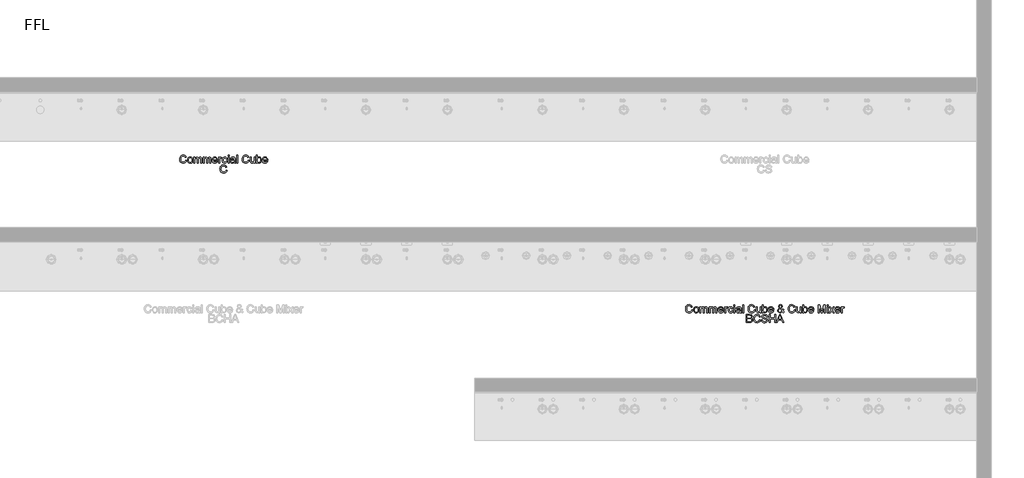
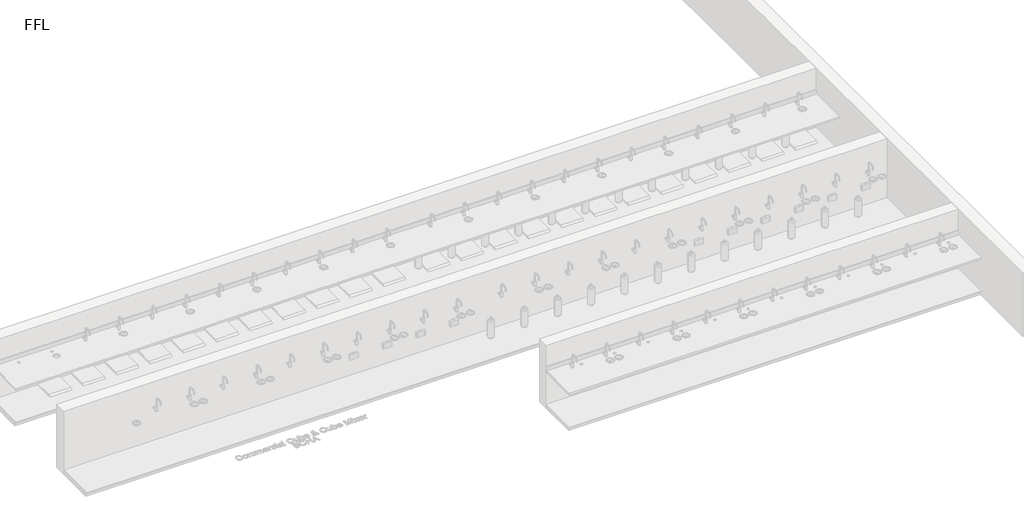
# One storey, part 11 of 14: 2 proxies.
"""IFC4 building model written with IfcOpenShell, lengths in millimetres."""

from ifc_helpers import new_model, si_unit, origin, origin_with_axes, place, context, project, spatial, polyline, outline, extrude, element, save

model = new_model("IFC4")

# Units and contexts
model_context = context("Model", 3, world=origin())
ifc_project = project(units=[si_unit("LENGTHUNIT", "METRE", prefix="MILLI")], contexts=[model_context])

# Site, building, storey
site = spatial("IfcSite", under=ifc_project)
building = spatial("IfcBuilding", under=site)
storey = spatial("IfcBuildingStorey", under=building, Name="FFL", Elevation=0.0)

# Proxies
placement = place(None, origin())
element("IfcBuildingElementProxy", 1, Name="150mm Arial", ObjectType="150mm Arial", at=placement, inside=storey, context=model_context, shape_type="SweptSolid", body=[
    extrude(outline(polyline([(-3043.9660621, 1076.3018309), (-3025.5045236, 1071.5422155), (-3034.0231534, 1050.0292948), (-3047.3915429, 1034.3126482), (-3064.951639, 1024.698766), (-3086.045389, 1021.4941386), (-3107.459151, 1023.9190184), (-3124.4648602, 1031.1936578), (-3137.4997159, 1043.065653), (-3147.0009179, 1059.2826001), (-3152.8016991, 1078.3481049), (-3154.7352929, 1098.7657732), (-3152.5492953, 1120.3012299), (-3145.9913025, 1138.8979847), (-3135.4038626, 1153.9655929), (-3121.1295236, 1164.9136097), (-3104.2004371, 1171.5797756), (-3085.6487544, 1173.8018309), (-3065.4068674, 1170.9262299), (-3048.6715909, 1162.299427), (-3035.9657616, 1148.4532732), (-3027.8122159, 1129.9196193), (-3046.2737544, 1125.5205809), (-3052.6739948, 1138.9836217), (-3061.4179852, 1148.2188982), (-3072.6138986, 1153.5599439), (-3086.3699083, 1155.3402924), (-3102.2262784, 1153.3661338), (-3115.2521198, 1147.4436578), (-3125.1364347, 1138.1948597), (-3131.5682256, 1126.2417347), (-3136.2737544, 1098.8018309), (-3130.7028409, 1066.9989463), (-3123.5814467, 1055.1224439), (-3113.3590909, 1046.6804367), (-3101.1039828, 1041.6368669), (-3087.8843313, 1039.955677), (-3072.4741751, 1042.2453405), (-3059.6331294, 1049.1143309), (-3049.9381174, 1060.4905328), (-3043.9660621, 1076.3018309)])), origin_with_axes(), (0.0, 0.0, 1.0), 5.0),
    extrude(outline(polyline([(-3007.0429852, 1078.0326001), (-3003.0495958, 1104.1834415), (-2991.0694275, 1122.5638501), (-2976.2677448, 1131.5692588), (-2958.545389, 1134.5710617), (-2939.1508578, 1130.9157131), (-2923.6595717, 1119.9496674), (-2913.5048241, 1102.5383092), (-2910.1199083, 1079.5470232), (-2911.6163025, 1060.8961818), (-2916.1054852, 1046.6984655), (-2923.4567472, 1036.0659535), (-2933.5393794, 1028.1107251), (-2945.5150405, 1023.1482852), (-2958.545389, 1021.4941386), (-2978.1742953, 1025.1359655), (-2993.6475525, 1036.0614463), (-3003.694127, 1053.8378886), (-3007.0429852, 1078.0326001)]), holes=[polyline([(-2988.5814467, 1078.0686578), (-2986.4450284, 1061.3604246), (-2980.0357736, 1049.456879), (-2970.3903409, 1042.3309775), (-2958.545389, 1039.955677), (-2946.7545236, 1042.3444992), (-2937.1271198, 1049.5109655), (-2930.717865, 1061.5722636), (-2928.5814467, 1078.6455809), (-2930.7313866, 1094.8670352), (-2937.1812063, 1106.6083213), (-2946.8221318, 1113.7342227), (-2958.545389, 1116.1095232), (-2970.3903409, 1113.7432371), (-2980.0357736, 1106.644379), (-2986.4450284, 1094.7678766), (-2988.5814467, 1078.0686578)])]), origin_with_axes(), (0.0, 0.0, 1.0), 5.0),
    extrude(outline(polyline([(-2889.3506775, 1023.8018309), (-2889.3506775, 1132.2633693), (-2870.889139, 1132.2633693), (-2870.889139, 1114.4148117), (-2858.1968313, 1129.0362059), (-2840.1319275, 1134.5710617), (-2829.8644996, 1133.1603044), (-2821.6343313, 1128.9280328), (-2811.4660621, 1113.1167347), (-2797.061014, 1129.2074799), (-2778.8699083, 1134.5710617), (-2764.9922039, 1132.3399919), (-2754.7292833, 1125.6467828), (-2748.3876366, 1114.3111458), (-2746.2737544, 1098.1527924), (-2746.2737544, 1023.8018309), (-2764.7352929, 1023.8018309), (-2764.7352929, 1090.2201001), (-2766.4480333, 1105.6347636), (-2772.6499563, 1113.2249078), (-2783.1968313, 1116.1095232), (-2793.1983337, 1114.2615665), (-2801.3518794, 1108.7176963), (-2806.7740549, 1099.0993068), (-2808.5814467, 1085.0277924), (-2808.5814467, 1023.8018309), (-2827.0429852, 1023.8018309), (-2827.0429852, 1092.2753886), (-2831.3158217, 1110.160004), (-2836.9543434, 1114.6221434), (-2845.3242352, 1116.1095232), (-2858.9901006, 1112.143177), (-2868.076639, 1100.5326001), (-2870.889139, 1078.5013501), (-2870.889139, 1023.8018309), (-2889.3506775, 1023.8018309)])), origin_with_axes(), (0.0, 0.0, 1.0), 5.0),
    extrude(outline(polyline([(-2718.5814467, 1023.8018309), (-2718.5814467, 1132.2633693), (-2700.1199083, 1132.2633693), (-2700.1199083, 1114.4148117), (-2687.4276006, 1129.0362059), (-2669.3626967, 1134.5710617), (-2659.0952688, 1133.1603044), (-2650.8651006, 1128.9280328), (-2640.6968313, 1113.1167347), (-2626.2917833, 1129.2074799), (-2608.1006775, 1134.5710617), (-2594.2229732, 1132.3399919), (-2583.9600525, 1125.6467828), (-2577.6184059, 1114.3111458), (-2575.5045236, 1098.1527924), (-2575.5045236, 1023.8018309), (-2593.9660621, 1023.8018309), (-2593.9660621, 1090.2201001), (-2595.6788025, 1105.6347636), (-2601.8807256, 1113.2249078), (-2612.4276006, 1116.1095232), (-2622.429103, 1114.2615665), (-2630.5826486, 1108.7176963), (-2636.0048241, 1099.0993068), (-2637.8122159, 1085.0277924), (-2637.8122159, 1023.8018309), (-2656.2737544, 1023.8018309), (-2656.2737544, 1092.2753886), (-2660.5465909, 1110.160004), (-2666.1851126, 1114.6221434), (-2674.5550044, 1116.1095232), (-2688.2208698, 1112.143177), (-2697.3074083, 1100.5326001), (-2700.1199083, 1078.5013501), (-2700.1199083, 1023.8018309), (-2718.5814467, 1023.8018309)])), origin_with_axes(), (0.0, 0.0, 1.0), 5.0),
    extrude(outline(polyline([(-2471.8747159, 1056.1095232), (-2453.7737544, 1053.8018309), (-2460.2956895, 1040.1630088), (-2470.7028409, 1029.9676963), (-2484.7608337, 1023.612528), (-2502.2352929, 1021.4941386), (-2523.8969515, 1025.1494871), (-2540.5646198, 1036.1155328), (-2551.1926246, 1053.6801362), (-2554.7352929, 1077.1311578), (-2551.1565669, 1101.3709415), (-2540.420389, 1119.4989463), (-2523.9780813, 1130.8030328), (-2503.2809659, 1134.5710617), (-2483.2283818, 1130.8120472), (-2467.2052448, 1119.535004), (-2456.6989347, 1101.4430568), (-2453.1968313, 1077.2393309), (-2453.3050044, 1072.2633693), (-2536.2737544, 1072.2633693), (-2533.0781414, 1058.4442588), (-2525.654764, 1048.285004), (-2514.9411222, 1042.0380088), (-2501.8747159, 1039.955677), (-2483.7737544, 1043.8138501), (-2471.8747159, 1056.1095232)]), holes=[polyline([(-2536.2737544, 1090.7249078), (-2471.6583698, 1090.7249078), (-2474.155365, 1100.4785136), (-2479.0501967, 1107.455677), (-2489.8134179, 1113.9460617), (-2503.3530813, 1116.1095232), (-2515.7974924, 1114.3832612), (-2526.0874563, 1109.2044751), (-2533.240401, 1101.1320592), (-2536.2737544, 1090.7249078)])]), origin_with_axes(), (0.0, 0.0, 1.0), 5.0),
    extrude(outline(polyline([(-2434.7352929, 1023.8018309), (-2434.7352929, 1132.2633693), (-2418.5814467, 1132.2633693), (-2418.5814467, 1116.2176963), (-2407.1151006, 1131.0013501), (-2395.576639, 1134.5710617), (-2377.0429852, 1128.8739463), (-2383.2088506, 1112.3234655), (-2396.1896198, 1116.1095232), (-2406.6283217, 1112.4676963), (-2413.2809659, 1102.3715424), (-2416.2737544, 1080.8090424), (-2416.2737544, 1023.8018309), (-2434.7352929, 1023.8018309)])), origin_with_axes(), (0.0, 0.0, 1.0), 5.0),
    extrude(outline(polyline([(-2296.2737544, 1063.0326001), (-2277.8122159, 1060.7249078), (-2282.9594515, 1044.3051362), (-2292.6319275, 1031.8967828), (-2305.9191871, 1024.0947996), (-2321.9107736, 1021.4941386), (-2341.5486943, 1025.1224439), (-2356.904764, 1036.0073597), (-2366.8161222, 1053.6711217), (-2370.1199083, 1077.6359655), (-2364.4768794, 1108.3030328), (-2357.3554852, 1119.8009294), (-2347.2773602, 1128.0085617), (-2335.2205693, 1132.9304367), (-2322.1631775, 1134.5710617), (-2306.5637184, 1132.3174559), (-2294.092264, 1125.5566386), (-2285.1454491, 1114.6491867), (-2280.1199083, 1099.955677), (-2298.5814467, 1097.6479847), (-2307.1451486, 1111.4761097), (-2322.0189467, 1116.1095232), (-2333.9495357, 1113.8288742), (-2343.4191871, 1106.986927), (-2349.5985741, 1095.2140905), (-2351.6583698, 1078.1407732), (-2349.6436462, 1060.8375881), (-2343.5994756, 1049.0241867), (-2334.3010982, 1042.2228044), (-2322.5237544, 1039.955677), (-2312.9639587, 1041.3709415), (-2305.1259179, 1045.6167347), (-2299.4242953, 1052.8012299), (-2296.2737544, 1063.0326001)])), origin_with_axes(), (0.0, 0.0, 1.0), 5.0),
    extrude(outline(polyline([(-2261.6583698, 1153.0326001), (-2261.6583698, 1171.4941386), (-2243.1968313, 1171.4941386), (-2243.1968313, 1153.0326001), (-2261.6583698, 1153.0326001)])), origin_with_axes(), (0.0, 0.0, 1.0), 5.0),
    extrude(outline(polyline([(-2261.6583698, 1023.8018309), (-2261.6583698, 1132.2633693), (-2243.1968313, 1132.2633693), (-2243.1968313, 1023.8018309), (-2261.6583698, 1023.8018309)])), origin_with_axes(), (0.0, 0.0, 1.0), 5.0),
    extrude(outline(polyline([(-2146.2737544, 1037.6479847), (-2164.1763986, 1025.1359655), (-2183.9540429, 1021.4941386), (-2199.382228, 1023.6846434), (-2210.7629371, 1030.2561578), (-2217.7806655, 1040.2351242), (-2220.1199083, 1052.6479847), (-2216.5862544, 1067.2513501), (-2207.3013986, 1077.8523117), (-2194.3747159, 1083.910004), (-2178.4011583, 1086.6864463), (-2146.3819275, 1093.0326001), (-2146.2737544, 1097.143177), (-2147.5447881, 1105.3823597), (-2151.357889, 1110.7729847), (-2159.8855333, 1114.7753886), (-2171.7665429, 1116.1095232), (-2190.4444275, 1112.5578405), (-2199.3506775, 1099.955677), (-2217.8122159, 1102.2633693), (-2209.8254371, 1120.2922155), (-2193.7437063, 1130.8571193), (-2169.3867352, 1134.5710617), (-2147.0129371, 1131.2898117), (-2134.3747159, 1123.050629), (-2128.7136583, 1110.5205809), (-2127.8122159, 1094.3667347), (-2127.8122159, 1071.3979847), (-2126.8747159, 1039.3246674), (-2123.1968313, 1023.8018309), (-2141.6583698, 1023.8018309), (-2146.2737544, 1037.6479847)]), holes=[polyline([(-2146.2737544, 1074.5710617), (-2176.0574083, 1068.910004), (-2191.9408217, 1065.9172155), (-2199.1343313, 1061.049427), (-2201.6583698, 1053.9460617), (-2196.1595717, 1043.9580809), (-2180.0237544, 1039.955677), (-2161.3458698, 1044.3727443), (-2149.3026006, 1055.0638501), (-2146.3819275, 1069.3426963), (-2146.2737544, 1074.5710617)])]), origin_with_axes(), (0.0, 0.0, 1.0), 5.0),
    extrude(outline(polyline([(-2102.4276006, 1023.8018309), (-2102.4276006, 1171.4941386), (-2083.9660621, 1171.4941386), (-2083.9660621, 1023.8018309), (-2102.4276006, 1023.8018309)])), origin_with_axes(), (0.0, 0.0, 1.0), 5.0),
    extrude(outline(polyline([(-1892.4276006, 1076.3018309), (-1873.9660621, 1071.5422155), (-1882.4846919, 1050.0292948), (-1895.8530813, 1034.3126482), (-1913.4131775, 1024.698766), (-1934.5069275, 1021.4941386), (-1955.9206895, 1023.9190184), (-1972.9263986, 1031.1936578), (-1985.9612544, 1043.065653), (-1995.4624563, 1059.2826001), (-2001.2632376, 1078.3481049), (-2003.1968313, 1098.7657732), (-2001.0108337, 1120.3012299), (-1994.4528409, 1138.8979847), (-1983.865401, 1153.9655929), (-1969.5910621, 1164.9136097), (-1952.6619756, 1171.5797756), (-1934.1102929, 1173.8018309), (-1913.8684059, 1170.9262299), (-1897.1331294, 1162.299427), (-1884.4273001, 1148.4532732), (-1876.2737544, 1129.9196193), (-1894.7352929, 1125.5205809), (-1901.1355333, 1138.9836217), (-1909.8795236, 1148.2188982), (-1921.0754371, 1153.5599439), (-1934.8314467, 1155.3402924), (-1950.6878169, 1153.3661338), (-1963.7136583, 1147.4436578), (-1973.5979732, 1138.1948597), (-1980.029764, 1126.2417347), (-1984.7352929, 1098.8018309), (-1979.1643794, 1066.9989463), (-1972.0429852, 1055.1224439), (-1961.8206294, 1046.6804367), (-1949.5655212, 1041.6368669), (-1936.3458698, 1039.955677), (-1920.9357135, 1042.2453405), (-1908.0946679, 1049.1143309), (-1898.3996559, 1060.4905328), (-1892.4276006, 1076.3018309)])), origin_with_axes(), (0.0, 0.0, 1.0), 5.0),
    extrude(outline(polyline([(-1781.6583698, 1023.8018309), (-1781.6583698, 1042.4436578), (-1796.1175044, 1026.7315184), (-1814.9756775, 1021.4941386), (-1832.3374563, 1025.1720232), (-1844.3086102, 1034.4027924), (-1849.8074083, 1047.9965424), (-1850.889139, 1065.160004), (-1850.889139, 1132.2633693), (-1832.4276006, 1132.2633693), (-1832.4276006, 1073.8499078), (-1831.3098121, 1055.0277924), (-1824.0081294, 1043.9761097), (-1810.2521198, 1039.955677), (-1794.8374563, 1044.066254), (-1784.6511583, 1055.2621674), (-1781.6583698, 1075.8330809), (-1781.6583698, 1132.2633693), (-1763.1968313, 1132.2633693), (-1763.1968313, 1023.8018309), (-1781.6583698, 1023.8018309)])), origin_with_axes(), (0.0, 0.0, 1.0), 5.0),
    extrude(outline(polyline([(-1719.3506775, 1023.8018309), (-1737.8122159, 1023.8018309), (-1737.8122159, 1171.4941386), (-1719.3506775, 1171.4941386), (-1719.3506775, 1116.722504), (-1706.4239948, 1130.1089222), (-1690.3602929, 1134.5710617), (-1671.8626967, 1130.550629), (-1657.5117352, 1119.2465424), (-1648.6956294, 1101.6684174), (-1645.5045236, 1079.6551963), (-1648.8083097, 1055.0097636), (-1658.7196679, 1036.674427), (-1673.2644395, 1025.2892107), (-1690.4684659, 1021.4941386), (-1706.8837304, 1026.3889703), (-1719.3506775, 1041.0734655), (-1719.3506775, 1023.8018309)]), holes=[polyline([(-1719.3506775, 1078.7898117), (-1718.0886583, 1063.393177), (-1714.3026006, 1052.972504), (-1704.6301246, 1043.2098838), (-1692.0550044, 1039.955677), (-1681.3999563, 1042.3535136), (-1672.295389, 1049.5470232), (-1666.0483938, 1061.4911338), (-1663.9660621, 1078.1407732), (-1665.9627568, 1095.033802), (-1671.9528409, 1106.8426963), (-1680.7734539, 1113.7928165), (-1691.2617352, 1116.1095232), (-1701.9167833, 1113.7116867), (-1711.0213506, 1106.518177), (-1717.2683458, 1094.7904126), (-1719.3506775, 1078.7898117)])]), origin_with_axes(), (0.0, 0.0, 1.0), 5.0),
    extrude(outline(polyline([(-1548.7977929, 1056.1095232), (-1530.6968313, 1053.8018309), (-1537.2187664, 1040.1630088), (-1547.6259179, 1029.9676963), (-1561.6839107, 1023.612528), (-1579.1583698, 1021.4941386), (-1600.8200284, 1025.1494871), (-1617.4876967, 1036.1155328), (-1628.1157015, 1053.6801362), (-1631.6583698, 1077.1311578), (-1628.0796438, 1101.3709415), (-1617.3434659, 1119.4989463), (-1600.9011583, 1130.8030328), (-1580.2040429, 1134.5710617), (-1560.1514587, 1130.8120472), (-1544.1283217, 1119.535004), (-1533.6220116, 1101.4430568), (-1530.1199083, 1077.2393309), (-1530.2280813, 1072.2633693), (-1613.1968313, 1072.2633693), (-1610.0012184, 1058.4442588), (-1602.5778409, 1048.285004), (-1591.8641991, 1042.0380088), (-1578.7977929, 1039.955677), (-1560.6968313, 1043.8138501), (-1548.7977929, 1056.1095232)]), holes=[polyline([(-1613.1968313, 1090.7249078), (-1548.5814467, 1090.7249078), (-1551.0784419, 1100.4785136), (-1555.9732736, 1107.455677), (-1566.7364948, 1113.9460617), (-1580.2761583, 1116.1095232), (-1592.7205693, 1114.3832612), (-1603.0105333, 1109.2044751), (-1610.163478, 1101.1320592), (-1613.1968313, 1090.7249078)])]), origin_with_axes(), (0.0, 0.0, 1.0), 5.0),
    extrude(outline(polyline([(-2298.5814467, 893.9941386), (-2280.1199083, 889.2345232), (-2288.6385381, 867.7216025), (-2302.0069275, 852.0049559), (-2319.5670236, 842.3910737), (-2340.6607736, 839.1864463), (-2362.0745357, 841.6113261), (-2379.0802448, 848.8859655), (-2392.1151006, 860.7579607), (-2401.6163025, 876.9749078), (-2407.4170837, 896.0404126), (-2409.3506775, 916.4580809), (-2407.1646799, 937.9935376), (-2400.6066871, 956.5902924), (-2390.0192472, 971.6579006), (-2375.7449083, 982.6059174), (-2358.8158217, 989.2720833), (-2340.264139, 991.4941386), (-2320.022252, 988.6185376), (-2303.2869756, 979.9917347), (-2290.5811462, 966.1455809), (-2282.4276006, 947.611927), (-2300.889139, 943.2128886), (-2307.2893794, 956.6759294), (-2316.0333698, 965.9112059), (-2327.2292833, 971.2522516), (-2340.9852929, 973.0326001), (-2356.8416631, 971.0584415), (-2369.8675044, 965.1359655), (-2379.7518193, 955.8871674), (-2386.1836102, 943.9340424), (-2390.889139, 916.4941386), (-2385.3182256, 884.691254), (-2378.1968313, 872.8147516), (-2367.9744756, 864.3727443), (-2355.7193674, 859.3291746), (-2342.4997159, 857.6479847), (-2327.0895597, 859.9376482), (-2314.248514, 866.8066386), (-2304.553502, 878.1828405), (-2298.5814467, 893.9941386)])), origin_with_axes(), (0.0, 0.0, 1.0), 5.0),
])
element("IfcBuildingElementProxy", 2, Name="150mm Arial", ObjectType="150mm Arial", at=placement, inside=storey, context=model_context, shape_type="SweptSolid", body=[
    extrude(outline(polyline([(6277.5723994, -1683.6981691), (6296.0339379, -1688.4577845), (6287.5153081, -1709.9707052), (6274.1469187, -1725.6873518), (6256.5868225, -1735.301234), (6235.4930725, -1738.5058614), (6214.0793105, -1736.0809816), (6197.0736014, -1728.8063422), (6184.0387456, -1716.934347), (6174.5375437, -1700.7173999), (6168.7367624, -1681.6518951), (6166.8031687, -1661.2342268), (6168.9891663, -1639.6987701), (6175.5471591, -1621.1020153), (6186.134599, -1606.0344071), (6200.4089379, -1595.0863903), (6217.3380244, -1588.4202244), (6235.8897071, -1586.1981691), (6256.1315941, -1589.0737701), (6272.8668706, -1597.700573), (6285.5726999, -1611.5467268), (6293.7262456, -1630.0803807), (6275.2647071, -1634.4794191), (6268.8644667, -1621.0163783), (6260.1204764, -1611.7811018), (6248.9245629, -1606.4400561), (6235.1685533, -1604.6597076), (6219.3121831, -1606.6338662), (6206.2863417, -1612.5563422), (6196.4020268, -1621.8051403), (6189.970236, -1633.7582653), (6185.2647071, -1661.1981691), (6190.8356206, -1693.0010537), (6197.9570148, -1704.8775561), (6208.1793706, -1713.3195633), (6220.4344788, -1718.3631331), (6233.6541302, -1720.044323), (6249.0642865, -1717.7546595), (6261.9053321, -1710.8856691), (6271.6003441, -1699.5094672), (6277.5723994, -1683.6981691)])), origin_with_axes(), (0.0, 0.0, 1.0), 5.0),
    extrude(outline(polyline([(6314.4954764, -1681.9673999), (6318.4888658, -1655.8165585), (6330.4690341, -1637.4361499), (6345.2707167, -1628.4307412), (6362.9930725, -1625.4289383), (6382.3876038, -1629.0842869), (6397.8788898, -1640.0503326), (6408.0336374, -1657.4616908), (6411.4185533, -1680.4529768), (6409.9221591, -1699.1038182), (6405.4329764, -1713.3015345), (6398.0817143, -1723.9340465), (6387.9990821, -1731.8892749), (6376.0234211, -1736.8517148), (6362.9930725, -1738.5058614), (6343.3641663, -1734.8640345), (6327.8909091, -1723.9385537), (6317.8443345, -1706.1621114), (6314.4954764, -1681.9673999)]), holes=[polyline([(6332.9570148, -1681.9313422), (6335.0934331, -1698.6395754), (6341.5026879, -1710.543121), (6351.1481206, -1717.6690225), (6362.9930725, -1720.044323), (6374.7839379, -1717.6555008), (6384.4113417, -1710.4890345), (6390.8205966, -1698.4277364), (6392.9570148, -1681.3544191), (6390.8070749, -1665.1329648), (6384.3572552, -1653.3916787), (6374.7163297, -1646.2657773), (6362.9930725, -1643.8904768), (6351.1481206, -1646.2567629), (6341.5026879, -1653.355621), (6335.0934331, -1665.2321234), (6332.9570148, -1681.9313422)])]), origin_with_axes(), (0.0, 0.0, 1.0), 5.0),
    extrude(outline(polyline([(6432.1877841, -1736.1981691), (6432.1877841, -1627.7366307), (6450.6493225, -1627.7366307), (6450.6493225, -1645.5851883), (6463.3416302, -1630.9637941), (6481.4065341, -1625.4289383), (6491.6739619, -1626.8396956), (6499.9041302, -1631.0719672), (6510.0723994, -1646.8832653), (6524.4774475, -1630.7925201), (6542.6685533, -1625.4289383), (6556.5462576, -1627.6600081), (6566.8091783, -1634.3532172), (6573.1508249, -1645.6888542), (6575.2647071, -1661.8472076), (6575.2647071, -1736.1981691), (6556.8031687, -1736.1981691), (6556.8031687, -1669.7798999), (6555.0904283, -1654.3652364), (6548.8885052, -1646.7750922), (6538.3416302, -1643.8904768), (6528.3401278, -1645.7384335), (6520.1865821, -1651.2823037), (6514.7644066, -1660.9006932), (6512.9570148, -1674.9722076), (6512.9570148, -1736.1981691), (6494.4954764, -1736.1981691), (6494.4954764, -1667.7246114), (6490.2226398, -1649.839996), (6484.5841182, -1645.3778566), (6476.2142264, -1643.8904768), (6462.548361, -1647.856823), (6453.4618225, -1659.4673999), (6450.6493225, -1681.4986499), (6450.6493225, -1736.1981691), (6432.1877841, -1736.1981691)])), origin_with_axes(), (0.0, 0.0, 1.0), 5.0),
    extrude(outline(polyline([(6602.9570148, -1736.1981691), (6602.9570148, -1627.7366307), (6621.4185533, -1627.7366307), (6621.4185533, -1645.5851883), (6634.110861, -1630.9637941), (6652.1757648, -1625.4289383), (6662.4431927, -1626.8396956), (6670.673361, -1631.0719672), (6680.8416302, -1646.8832653), (6695.2466783, -1630.7925201), (6713.4377841, -1625.4289383), (6727.3154884, -1627.6600081), (6737.5784091, -1634.3532172), (6743.9200557, -1645.6888542), (6746.0339379, -1661.8472076), (6746.0339379, -1736.1981691), (6727.5723994, -1736.1981691), (6727.5723994, -1669.7798999), (6725.8596591, -1654.3652364), (6719.657736, -1646.7750922), (6709.110861, -1643.8904768), (6699.1093586, -1645.7384335), (6690.9558129, -1651.2823037), (6685.5336374, -1660.9006932), (6683.7262456, -1674.9722076), (6683.7262456, -1736.1981691), (6665.2647071, -1736.1981691), (6665.2647071, -1667.7246114), (6660.9918706, -1649.839996), (6655.353349, -1645.3778566), (6646.9834571, -1643.8904768), (6633.3175917, -1647.856823), (6624.2310533, -1659.4673999), (6621.4185533, -1681.4986499), (6621.4185533, -1736.1981691), (6602.9570148, -1736.1981691)])), origin_with_axes(), (0.0, 0.0, 1.0), 5.0),
    extrude(outline(polyline([(6849.6637456, -1703.8904768), (6867.7647071, -1706.1981691), (6861.242772, -1719.8369912), (6850.8356206, -1730.0323037), (6836.7776278, -1736.387472), (6819.3031687, -1738.5058614), (6797.64151, -1734.8505129), (6780.9738417, -1723.8844672), (6770.3458369, -1706.3198638), (6766.8031687, -1682.8688422), (6770.3818946, -1658.6290585), (6781.1180725, -1640.5010537), (6797.5603802, -1629.1969672), (6818.2574956, -1625.4289383), (6838.3100797, -1629.1879528), (6854.3332167, -1640.464996), (6864.8395268, -1658.5569432), (6868.3416302, -1682.7606691), (6868.2334571, -1687.7366307), (6785.2647071, -1687.7366307), (6788.4603201, -1701.5557412), (6795.8836975, -1711.714996), (6806.5973393, -1717.9619912), (6819.6637456, -1720.044323), (6837.7647071, -1716.1861499), (6849.6637456, -1703.8904768)]), holes=[polyline([(6785.2647071, -1669.2750922), (6849.8800917, -1669.2750922), (6847.3830966, -1659.5214864), (6842.4882648, -1652.544323), (6831.7250437, -1646.0539383), (6818.1853802, -1643.8904768), (6805.7409691, -1645.6167388), (6795.4510052, -1650.7955249), (6788.2980605, -1658.8679408), (6785.2647071, -1669.2750922)])]), origin_with_axes(), (0.0, 0.0, 1.0), 5.0),
    extrude(outline(polyline([(6886.8031687, -1736.1981691), (6886.8031687, -1627.7366307), (6902.9570148, -1627.7366307), (6902.9570148, -1643.7823037), (6914.423361, -1628.9986499), (6925.9618225, -1625.4289383), (6944.4954764, -1631.1260537), (6938.329611, -1647.6765345), (6925.3488417, -1643.8904768), (6914.9101398, -1647.5323037), (6908.2574956, -1657.6284576), (6905.2647071, -1679.1909576), (6905.2647071, -1736.1981691), (6886.8031687, -1736.1981691)])), origin_with_axes(), (0.0, 0.0, 1.0), 5.0),
    extrude(outline(polyline([(7025.2647071, -1696.9673999), (7043.7262456, -1699.2750922), (7038.57901, -1715.6948638), (7028.9065341, -1728.1032172), (7015.6192744, -1735.9052004), (6999.6276879, -1738.5058614), (6979.9897672, -1734.8775561), (6964.6336975, -1723.9926403), (6954.7223393, -1706.3288783), (6951.4185533, -1682.3640345), (6957.0615821, -1651.6969672), (6964.1829764, -1640.1990706), (6974.2611014, -1631.9914383), (6986.3178922, -1627.0695633), (6999.3752841, -1625.4289383), (7014.9747432, -1627.6825441), (7027.4461975, -1634.4433614), (7036.3930124, -1645.3508133), (7041.4185533, -1660.044323), (7022.9570148, -1662.3520153), (7014.3933129, -1648.5238903), (6999.5195148, -1643.8904768), (6987.5889259, -1646.1711258), (6978.1192744, -1653.013073), (6971.9398874, -1664.7859095), (6969.8800917, -1681.8592268), (6971.8948153, -1699.1624119), (6977.938986, -1710.9758133), (6987.2373634, -1717.7771956), (6999.0147071, -1720.044323), (7008.5745028, -1718.6290585), (7016.4125437, -1714.3832653), (7022.1141663, -1707.1987701), (7025.2647071, -1696.9673999)])), origin_with_axes(), (0.0, 0.0, 1.0), 5.0),
    extrude(outline(polyline([(7059.8800917, -1606.9673999), (7059.8800917, -1588.5058614), (7078.3416302, -1588.5058614), (7078.3416302, -1606.9673999), (7059.8800917, -1606.9673999)])), origin_with_axes(), (0.0, 0.0, 1.0), 5.0),
    extrude(outline(polyline([(7059.8800917, -1736.1981691), (7059.8800917, -1627.7366307), (7078.3416302, -1627.7366307), (7078.3416302, -1736.1981691), (7059.8800917, -1736.1981691)])), origin_with_axes(), (0.0, 0.0, 1.0), 5.0),
    extrude(outline(polyline([(7175.2647071, -1722.3520153), (7157.3620629, -1734.8640345), (7137.5844187, -1738.5058614), (7122.1562336, -1736.3153566), (7110.7755244, -1729.7438422), (7103.7577961, -1719.7648758), (7101.4185533, -1707.3520153), (7104.9522071, -1692.7486499), (7114.2370629, -1682.1476883), (7127.1637456, -1676.089996), (7143.1373033, -1673.3135537), (7175.1565341, -1666.9673999), (7175.2647071, -1662.856823), (7173.9936735, -1654.6176403), (7170.1805725, -1649.2270153), (7161.6529283, -1645.2246114), (7149.7719187, -1643.8904768), (7131.0940341, -1647.4421595), (7122.1877841, -1660.044323), (7103.7262456, -1657.7366307), (7111.7130244, -1639.7077845), (7127.7947552, -1629.1428807), (7152.1517264, -1625.4289383), (7174.5255244, -1628.7101883), (7187.1637456, -1636.949371), (7192.8248033, -1649.4794191), (7193.7262456, -1665.6332653), (7193.7262456, -1688.6020153), (7194.6637456, -1720.6753326), (7198.3416302, -1736.1981691), (7179.8800917, -1736.1981691), (7175.2647071, -1722.3520153)]), holes=[polyline([(7175.2647071, -1685.4289383), (7145.4810533, -1691.089996), (7129.5976398, -1694.0827845), (7122.4041302, -1698.950573), (7119.8800917, -1706.0539383), (7125.3788898, -1716.0419191), (7141.5147071, -1720.044323), (7160.1925917, -1715.6272557), (7172.235861, -1704.9361499), (7175.1565341, -1690.6573037), (7175.2647071, -1685.4289383)])]), origin_with_axes(), (0.0, 0.0, 1.0), 5.0),
    extrude(outline(polyline([(7219.110861, -1736.1981691), (7219.110861, -1588.5058614), (7237.5723994, -1588.5058614), (7237.5723994, -1736.1981691), (7219.110861, -1736.1981691)])), origin_with_axes(), (0.0, 0.0, 1.0), 5.0),
    extrude(outline(polyline([(7429.110861, -1683.6981691), (7447.5723994, -1688.4577845), (7439.0537696, -1709.9707052), (7425.6853802, -1725.6873518), (7408.1252841, -1735.301234), (7387.0315341, -1738.5058614), (7365.617772, -1736.0809816), (7348.6120629, -1728.8063422), (7335.5772071, -1716.934347), (7326.0760052, -1700.7173999), (7320.275224, -1681.6518951), (7318.3416302, -1661.2342268), (7320.5276278, -1639.6987701), (7327.0856206, -1621.1020153), (7337.6730605, -1606.0344071), (7351.9473994, -1595.0863903), (7368.876486, -1588.4202244), (7387.4281687, -1586.1981691), (7407.6700557, -1589.0737701), (7424.4053321, -1597.700573), (7437.1111615, -1611.5467268), (7445.2647071, -1630.0803807), (7426.8031687, -1634.4794191), (7420.4029283, -1621.0163783), (7411.6589379, -1611.7811018), (7400.4630244, -1606.4400561), (7386.7070148, -1604.6597076), (7370.8506446, -1606.6338662), (7357.8248033, -1612.5563422), (7347.9404884, -1621.8051403), (7341.5086975, -1633.7582653), (7336.8031687, -1661.1981691), (7342.3740821, -1693.0010537), (7349.4954764, -1704.8775561), (7359.7178321, -1713.3195633), (7371.9729403, -1718.3631331), (7385.1925917, -1720.044323), (7400.602748, -1717.7546595), (7413.4437937, -1710.8856691), (7423.1388057, -1699.5094672), (7429.110861, -1683.6981691)])), origin_with_axes(), (0.0, 0.0, 1.0), 5.0),
    extrude(outline(polyline([(7539.8800917, -1736.1981691), (7539.8800917, -1717.5563422), (7525.4209571, -1733.2684816), (7506.5627841, -1738.5058614), (7489.2010052, -1734.8279768), (7477.2298514, -1725.5972076), (7471.7310533, -1712.0034576), (7470.6493225, -1694.839996), (7470.6493225, -1627.7366307), (7489.110861, -1627.7366307), (7489.110861, -1686.1500922), (7490.2286494, -1704.9722076), (7497.5303321, -1716.0238903), (7511.2863417, -1720.044323), (7526.7010052, -1715.933746), (7536.8873033, -1704.7378326), (7539.8800917, -1684.1669191), (7539.8800917, -1627.7366307), (7558.3416302, -1627.7366307), (7558.3416302, -1736.1981691), (7539.8800917, -1736.1981691)])), origin_with_axes(), (0.0, 0.0, 1.0), 5.0),
    extrude(outline(polyline([(7602.1877841, -1736.1981691), (7583.7262456, -1736.1981691), (7583.7262456, -1588.5058614), (7602.1877841, -1588.5058614), (7602.1877841, -1643.277496), (7615.1144667, -1629.8910778), (7631.1781687, -1625.4289383), (7649.6757648, -1629.449371), (7664.0267264, -1640.7534576), (7672.8428321, -1658.3315826), (7676.0339379, -1680.3448037), (7672.7301518, -1704.9902364), (7662.8187937, -1723.325573), (7648.274022, -1734.7107893), (7631.0699956, -1738.5058614), (7614.6547312, -1733.6110297), (7602.1877841, -1718.9265345), (7602.1877841, -1736.1981691)]), holes=[polyline([(7602.1877841, -1681.2101883), (7603.4498033, -1696.606823), (7607.235861, -1707.027496), (7616.9083369, -1716.7901162), (7629.4834571, -1720.044323), (7640.1385052, -1717.6464864), (7649.2430725, -1710.4529768), (7655.4900677, -1698.5088662), (7657.5723994, -1681.8592268), (7655.5757047, -1664.966198), (7649.5856206, -1653.1573037), (7640.7650076, -1646.2071835), (7630.2767264, -1643.8904768), (7619.6216783, -1646.2883133), (7610.517111, -1653.481823), (7604.2701158, -1665.2095874), (7602.1877841, -1681.2101883)])]), origin_with_axes(), (0.0, 0.0, 1.0), 5.0),
    extrude(outline(polyline([(7772.7406687, -1703.8904768), (7790.8416302, -1706.1981691), (7784.3196951, -1719.8369912), (7773.9125437, -1730.0323037), (7759.8545509, -1736.387472), (7742.3800917, -1738.5058614), (7720.7184331, -1734.8505129), (7704.0507648, -1723.8844672), (7693.42276, -1706.3198638), (7689.8800917, -1682.8688422), (7693.4588177, -1658.6290585), (7704.1949956, -1640.5010537), (7720.6373033, -1629.1969672), (7741.3344187, -1625.4289383), (7761.3870028, -1629.1879528), (7777.4101398, -1640.464996), (7787.9164499, -1658.5569432), (7791.4185533, -1682.7606691), (7791.3103802, -1687.7366307), (7708.3416302, -1687.7366307), (7711.5372432, -1701.5557412), (7718.9606206, -1711.714996), (7729.6742624, -1717.9619912), (7742.7406687, -1720.044323), (7760.8416302, -1716.1861499), (7772.7406687, -1703.8904768)]), holes=[polyline([(7708.3416302, -1669.2750922), (7772.9570148, -1669.2750922), (7770.4600196, -1659.5214864), (7765.5651879, -1652.544323), (7754.8019667, -1646.0539383), (7741.2623033, -1643.8904768), (7728.8178922, -1645.6167388), (7718.5279283, -1650.7955249), (7711.3749836, -1658.8679408), (7708.3416302, -1669.2750922)])]), origin_with_axes(), (0.0, 0.0, 1.0), 5.0),
    extrude(outline(polyline([(7952.2719187, -1717.9529768), (7932.6925917, -1733.3676403), (7909.7959571, -1738.5058614), (7889.423361, -1734.7017749), (7873.7382648, -1723.2895153), (7865.6523273, -1710.1555008), (7862.9570148, -1695.5611499), (7865.1249836, -1682.6254528), (7871.6288898, -1671.0058614), (7882.4416903, -1660.7113903), (7897.5363417, -1651.7510537), (7884.6457167, -1633.0731691), (7881.4185533, -1619.2270153), (7883.9606206, -1606.7600682), (7891.5868225, -1596.0419191), (7903.0621831, -1588.6591066), (7917.1517264, -1586.1981691), (7930.5561735, -1588.5509335), (7941.2743225, -1595.6092268), (7948.3055725, -1605.9667989), (7950.6493225, -1618.2173999), (7948.9140461, -1628.5028566), (7943.7082167, -1638.013073), (7922.8848994, -1654.7077845), (7949.6036494, -1687.9890345), (7957.5723994, -1667.544323), (7976.0339379, -1671.5467268), (7962.9810533, -1701.9433614), (7985.2647071, -1724.2991307), (7971.4185533, -1738.5058614), (7952.2719187, -1717.9529768)]), holes=[polyline([(7913.5459571, -1643.0611499), (7928.7262456, -1631.6128326), (7932.1877841, -1620.7414383), (7927.626486, -1609.1488903), (7916.2142264, -1604.6597076), (7904.5495629, -1609.1128326), (7899.8800917, -1619.9842268), (7901.4666302, -1626.7450441), (7906.2623033, -1634.263073), (7913.5459571, -1643.0611499)]), polyline([(7939.9041302, -1704.6476883), (7906.9473994, -1663.5058614), (7886.6649475, -1678.9746114), (7881.4185533, -1693.1092268), (7883.2124235, -1701.8171595), (7888.5940341, -1710.8496114), (7897.2659091, -1717.7456451), (7908.9305725, -1720.044323), (7925.8957167, -1715.7534576), (7939.9041302, -1704.6476883)])]), origin_with_axes(), (0.0, 0.0, 1.0), 5.0),
    extrude(outline(polyline([(8167.5723994, -1683.6981691), (8186.0339379, -1688.4577845), (8177.5153081, -1709.9707052), (8164.1469187, -1725.6873518), (8146.5868225, -1735.301234), (8125.4930725, -1738.5058614), (8104.0793105, -1736.0809816), (8087.0736014, -1728.8063422), (8074.0387456, -1716.934347), (8064.5375437, -1700.7173999), (8058.7367624, -1681.6518951), (8056.8031687, -1661.2342268), (8058.9891663, -1639.6987701), (8065.5471591, -1621.1020153), (8076.134599, -1606.0344071), (8090.4089379, -1595.0863903), (8107.3380244, -1588.4202244), (8125.8897071, -1586.1981691), (8146.1315941, -1589.0737701), (8162.8668706, -1597.700573), (8175.5726999, -1611.5467268), (8183.7262456, -1630.0803807), (8165.2647071, -1634.4794191), (8158.8644667, -1621.0163783), (8150.1204764, -1611.7811018), (8138.9245629, -1606.4400561), (8125.1685533, -1604.6597076), (8109.3121831, -1606.6338662), (8096.2863417, -1612.5563422), (8086.4020268, -1621.8051403), (8079.970236, -1633.7582653), (8075.2647071, -1661.1981691), (8080.8356206, -1693.0010537), (8087.9570148, -1704.8775561), (8098.1793706, -1713.3195633), (8110.4344788, -1718.3631331), (8123.6541302, -1720.044323), (8139.0642865, -1717.7546595), (8151.9053321, -1710.8856691), (8161.6003441, -1699.5094672), (8167.5723994, -1683.6981691)])), origin_with_axes(), (0.0, 0.0, 1.0), 5.0),
    extrude(outline(polyline([(8278.3416302, -1736.1981691), (8278.3416302, -1717.5563422), (8263.8824956, -1733.2684816), (8245.0243225, -1738.5058614), (8227.6625437, -1734.8279768), (8215.6913898, -1725.5972076), (8210.1925917, -1712.0034576), (8209.110861, -1694.839996), (8209.110861, -1627.7366307), (8227.5723994, -1627.7366307), (8227.5723994, -1686.1500922), (8228.6901879, -1704.9722076), (8235.9918706, -1716.0238903), (8249.7478802, -1720.044323), (8265.1625437, -1715.933746), (8275.3488417, -1704.7378326), (8278.3416302, -1684.1669191), (8278.3416302, -1627.7366307), (8296.8031687, -1627.7366307), (8296.8031687, -1736.1981691), (8278.3416302, -1736.1981691)])), origin_with_axes(), (0.0, 0.0, 1.0), 5.0),
    extrude(outline(polyline([(8340.6493225, -1736.1981691), (8322.1877841, -1736.1981691), (8322.1877841, -1588.5058614), (8340.6493225, -1588.5058614), (8340.6493225, -1643.277496), (8353.5760052, -1629.8910778), (8369.6397071, -1625.4289383), (8388.1373033, -1629.449371), (8402.4882648, -1640.7534576), (8411.3043706, -1658.3315826), (8414.4954764, -1680.3448037), (8411.1916903, -1704.9902364), (8401.2803321, -1723.325573), (8386.7355605, -1734.7107893), (8369.5315341, -1738.5058614), (8353.1162696, -1733.6110297), (8340.6493225, -1718.9265345), (8340.6493225, -1736.1981691)]), holes=[polyline([(8340.6493225, -1681.2101883), (8341.9113417, -1696.606823), (8345.6973994, -1707.027496), (8355.3698754, -1716.7901162), (8367.9449956, -1720.044323), (8378.6000437, -1717.6464864), (8387.704611, -1710.4529768), (8393.9516062, -1698.5088662), (8396.0339379, -1681.8592268), (8394.0372432, -1664.966198), (8388.0471591, -1653.1573037), (8379.2265461, -1646.2071835), (8368.7382648, -1643.8904768), (8358.0832167, -1646.2883133), (8348.9786494, -1653.481823), (8342.7316542, -1665.2095874), (8340.6493225, -1681.2101883)])]), origin_with_axes(), (0.0, 0.0, 1.0), 5.0),
    extrude(outline(polyline([(8511.2022071, -1703.8904768), (8529.3031687, -1706.1981691), (8522.7812336, -1719.8369912), (8512.3740821, -1730.0323037), (8498.3160893, -1736.387472), (8480.8416302, -1738.5058614), (8459.1799716, -1734.8505129), (8442.5123033, -1723.8844672), (8431.8842985, -1706.3198638), (8428.3416302, -1682.8688422), (8431.9203562, -1658.6290585), (8442.6565341, -1640.5010537), (8459.0988417, -1629.1969672), (8479.7959571, -1625.4289383), (8499.8485413, -1629.1879528), (8515.8716783, -1640.464996), (8526.3779884, -1658.5569432), (8529.8800917, -1682.7606691), (8529.7719187, -1687.7366307), (8446.8031687, -1687.7366307), (8449.9987816, -1701.5557412), (8457.4221591, -1711.714996), (8468.1358009, -1717.9619912), (8481.2022071, -1720.044323), (8499.3031687, -1716.1861499), (8511.2022071, -1703.8904768)]), holes=[polyline([(8446.8031687, -1669.2750922), (8511.4185533, -1669.2750922), (8508.9215581, -1659.5214864), (8504.0267264, -1652.544323), (8493.2635052, -1646.0539383), (8479.7238417, -1643.8904768), (8467.2794307, -1645.6167388), (8456.9894667, -1650.7955249), (8449.836522, -1658.8679408), (8446.8031687, -1669.2750922)])]), origin_with_axes(), (0.0, 0.0, 1.0), 5.0),
    extrude(outline(polyline([(8608.3416302, -1736.1981691), (8608.3416302, -1588.5058614), (8640.1084571, -1588.5058614), (8670.3248033, -1692.6044191), (8676.4185533, -1714.3472076), (8683.017111, -1690.8015345), (8712.7286494, -1588.5058614), (8744.4954764, -1588.5058614), (8744.4954764, -1736.1981691), (8726.0339379, -1736.1981691), (8726.0339379, -1606.9673999), (8688.9305725, -1736.1981691), (8663.9065341, -1736.1981691), (8626.8031687, -1606.9673999), (8626.8031687, -1736.1981691), (8608.3416302, -1736.1981691)])), origin_with_axes(), (0.0, 0.0, 1.0), 5.0),
    extrude(outline(polyline([(8774.4954764, -1736.1981691), (8774.4954764, -1627.7366307), (8792.9570148, -1627.7366307), (8792.9570148, -1736.1981691), (8774.4954764, -1736.1981691)])), origin_with_axes(), (0.0, 0.0, 1.0), 5.0),
    extrude(outline(polyline([(8774.4954764, -1606.9673999), (8774.4954764, -1588.5058614), (8792.9570148, -1588.5058614), (8792.9570148, -1606.9673999), (8774.4954764, -1606.9673999)])), origin_with_axes(), (0.0, 0.0, 1.0), 5.0),
    extrude(outline(polyline([(8809.110861, -1736.1981691), (8848.5579764, -1681.6789383), (8811.4185533, -1627.7366307), (8833.6300917, -1627.7366307), (8851.5507648, -1653.6981691), (8859.9161494, -1665.9577845), (8867.1637456, -1655.933746), (8887.5723994, -1627.7366307), (8909.7839379, -1627.7366307), (8870.7695148, -1681.6789383), (8908.3416302, -1736.1981691), (8886.1300917, -1736.1981691), (8863.5219187, -1703.4217268), (8859.3752841, -1697.4361499), (8831.3223994, -1736.1981691), (8809.110861, -1736.1981691)])), origin_with_axes(), (0.0, 0.0, 1.0), 5.0),
    extrude(outline(polyline([(9000.4329764, -1703.8904768), (9018.5339379, -1706.1981691), (9012.0120028, -1719.8369912), (9001.6048514, -1730.0323037), (8987.5468586, -1736.387472), (8970.0723994, -1738.5058614), (8948.4107408, -1734.8505129), (8931.7430725, -1723.8844672), (8921.1150677, -1706.3198638), (8917.5723994, -1682.8688422), (8921.1511254, -1658.6290585), (8931.8873033, -1640.5010537), (8948.329611, -1629.1969672), (8969.0267264, -1625.4289383), (8989.0793105, -1629.1879528), (9005.1024475, -1640.464996), (9015.6087576, -1658.5569432), (9019.110861, -1682.7606691), (9019.0026879, -1687.7366307), (8936.0339379, -1687.7366307), (8939.2295509, -1701.5557412), (8946.6529283, -1711.714996), (8957.3665701, -1717.9619912), (8970.4329764, -1720.044323), (8988.5339379, -1716.1861499), (9000.4329764, -1703.8904768)]), holes=[polyline([(8936.0339379, -1669.2750922), (9000.6493225, -1669.2750922), (8998.1523273, -1659.5214864), (8993.2574956, -1652.544323), (8982.4942744, -1646.0539383), (8968.954611, -1643.8904768), (8956.5101999, -1645.6167388), (8946.220236, -1650.7955249), (8939.0672913, -1658.8679408), (8936.0339379, -1669.2750922)])]), origin_with_axes(), (0.0, 0.0, 1.0), 5.0),
    extrude(outline(polyline([(9037.5723994, -1736.1981691), (9037.5723994, -1627.7366307), (9053.7262456, -1627.7366307), (9053.7262456, -1643.7823037), (9065.1925917, -1628.9986499), (9076.7310533, -1625.4289383), (9095.2647071, -1631.1260537), (9089.0988417, -1647.6765345), (9076.1180725, -1643.8904768), (9065.6793706, -1647.5323037), (9059.0267264, -1657.6284576), (9056.0339379, -1679.1909576), (9056.0339379, -1736.1981691), (9037.5723994, -1736.1981691)])), origin_with_axes(), (0.0, 0.0, 1.0), 5.0),
    extrude(outline(polyline([(7289.4954764, -1918.5058614), (7289.4954764, -1770.8135537), (7345.8536494, -1770.8135537), (7373.4558129, -1775.1585057), (7382.7316542, -1780.6708254), (7389.7538898, -1788.5178807), (7395.6493225, -1807.4121114), (7390.6913898, -1824.6657172), (7375.7094187, -1837.7366307), (7386.1706566, -1843.199371), (7393.9005244, -1851.5106691), (7398.6736615, -1862.1206451), (7400.2647071, -1874.4794191), (7395.9197552, -1894.3291787), (7385.1565341, -1908.4637941), (7369.0928321, -1915.9637941), (7345.4209571, -1918.5058614), (7289.4954764, -1918.5058614)]), holes=[polyline([(7307.9570148, -1830.8135537), (7341.6709571, -1830.8135537), (7361.3584571, -1829.2270153), (7373.2034091, -1822.3940826), (7377.1877841, -1810.3688422), (7373.4738417, -1798.325573), (7362.8368225, -1791.2041787), (7339.110861, -1789.2750922), (7307.9570148, -1789.2750922), (7307.9570148, -1830.8135537)]), polyline([(7307.9570148, -1900.044323), (7345.8175917, -1900.044323), (7359.5195148, -1899.3231691), (7371.1120629, -1895.3027364), (7378.7923514, -1887.0996114), (7381.8031687, -1874.6597076), (7378.2695148, -1860.308746), (7366.8211975, -1851.7450441), (7344.0147071, -1849.2750922), (7307.9570148, -1849.2750922), (7307.9570148, -1900.044323)])]), origin_with_axes(), (0.0, 0.0, 1.0), 5.0),
    extrude(outline(polyline([(7529.4954764, -1866.0058614), (7547.9570148, -1870.7654768), (7539.438385, -1892.2783975), (7526.0699956, -1907.9950441), (7508.5098994, -1917.6089263), (7487.4161494, -1920.8135537), (7466.0023874, -1918.3886739), (7448.9966783, -1911.1140345), (7435.9618225, -1899.2420393), (7426.4606206, -1883.0250922), (7420.6598393, -1863.9595874), (7418.7262456, -1843.5419191), (7420.9122432, -1822.0064624), (7427.470236, -1803.4097076), (7438.0576759, -1788.3420994), (7452.3320148, -1777.3940826), (7469.2611014, -1770.7279167), (7487.8127841, -1768.5058614), (7508.0546711, -1771.3814624), (7524.7899475, -1780.0082653), (7537.4957768, -1793.8544191), (7545.6493225, -1812.388073), (7527.1877841, -1816.7871114), (7520.7875437, -1803.3240706), (7512.0435533, -1794.0887941), (7500.8476398, -1788.7477484), (7487.0916302, -1786.9673999), (7471.23526, -1788.9415585), (7458.2094187, -1794.8640345), (7448.3251038, -1804.1128326), (7441.8933129, -1816.0659576), (7437.1877841, -1843.5058614), (7442.7586975, -1875.308746), (7449.8800917, -1887.1852484), (7460.1024475, -1895.6272557), (7472.3575557, -1900.6708254), (7485.5772071, -1902.3520153), (7500.9873634, -1900.0623518), (7513.8284091, -1893.1933614), (7523.5234211, -1881.8171595), (7529.4954764, -1866.0058614)])), origin_with_axes(), (0.0, 0.0, 1.0), 5.0),
    extrude(outline(polyline([(7566.4185533, -1867.7366307), (7584.8800917, -1867.7366307), (7590.829611, -1886.216198), (7605.360861, -1897.8988903), (7627.5002841, -1902.3520153), (7646.7911494, -1898.980621), (7659.2490821, -1889.7137941), (7663.3416302, -1877.3279768), (7660.2767264, -1865.8075441), (7647.7286494, -1857.4241307), (7620.8476398, -1850.3748518), (7591.9113417, -1841.2702845), (7576.2082167, -1827.5323037), (7571.0339379, -1809.1789383), (7572.633998, -1798.3661379), (7577.4341783, -1788.2835057), (7585.3082768, -1779.7378326), (7596.1300917, -1773.5359095), (7623.4978802, -1768.5058614), (7652.704611, -1773.7702845), (7663.9005244, -1780.2696835), (7672.1757648, -1789.2390345), (7677.4131446, -1800.1194432), (7679.4954764, -1812.3520153), (7661.0339379, -1812.3520153), (7657.6445148, -1801.3363903), (7650.5772071, -1793.3856691), (7639.5345389, -1788.5719672), (7624.2190341, -1786.9673999), (7608.5429523, -1788.5539383), (7597.7887456, -1793.3135537), (7591.5687937, -1800.3177605), (7589.4954764, -1808.638073), (7590.9648273, -1815.7324239), (7595.3728802, -1821.4385537), (7625.517111, -1831.7510537), (7658.1853802, -1841.0178807), (7668.7097191, -1847.715597), (7676.0519667, -1855.981823), (7681.8031687, -1876.8592268), (7680.149022, -1888.2399359), (7675.1865821, -1898.9445633), (7667.1186735, -1908.1573037), (7656.1481206, -1915.0623518), (7628.2214379, -1920.8135537), (7610.133998, -1919.263073), (7595.2466783, -1914.6116307), (7583.3882047, -1906.841198), (7574.3873033, -1895.933746), (7568.6090581, -1882.6464864), (7566.4185533, -1867.7366307)])), origin_with_axes(), (0.0, 0.0, 1.0), 5.0),
    extrude(outline(polyline([(7709.4954764, -1918.5058614), (7709.4954764, -1770.8135537), (7727.9570148, -1770.8135537), (7727.9570148, -1830.8135537), (7806.4185533, -1830.8135537), (7806.4185533, -1770.8135537), (7824.8800917, -1770.8135537), (7824.8800917, -1918.5058614), (7806.4185533, -1918.5058614), (7806.4185533, -1849.2750922), (7727.9570148, -1849.2750922), (7727.9570148, -1918.5058614), (7709.4954764, -1918.5058614)])), origin_with_axes(), (0.0, 0.0, 1.0), 5.0),
    extrude(outline(polyline([(7839.9882648, -1918.5058614), (7898.9425917, -1770.8135537), (7914.6637456, -1770.8135537), (7973.6180725, -1918.5058614), (7954.110861, -1918.5058614), (7937.1998033, -1872.3520153), (7876.3704764, -1872.3520153), (7859.4954764, -1918.5058614), (7839.9882648, -1918.5058614)]), holes=[polyline([(7883.1493225, -1853.8904768), (7930.4570148, -1853.8904768), (7917.1517264, -1817.5803807), (7906.8031687, -1789.2750922), (7897.6084571, -1814.4073037), (7883.1493225, -1853.8904768)])]), origin_with_axes(), (0.0, 0.0, 1.0), 5.0),
])

save(model, "model.ifc")
